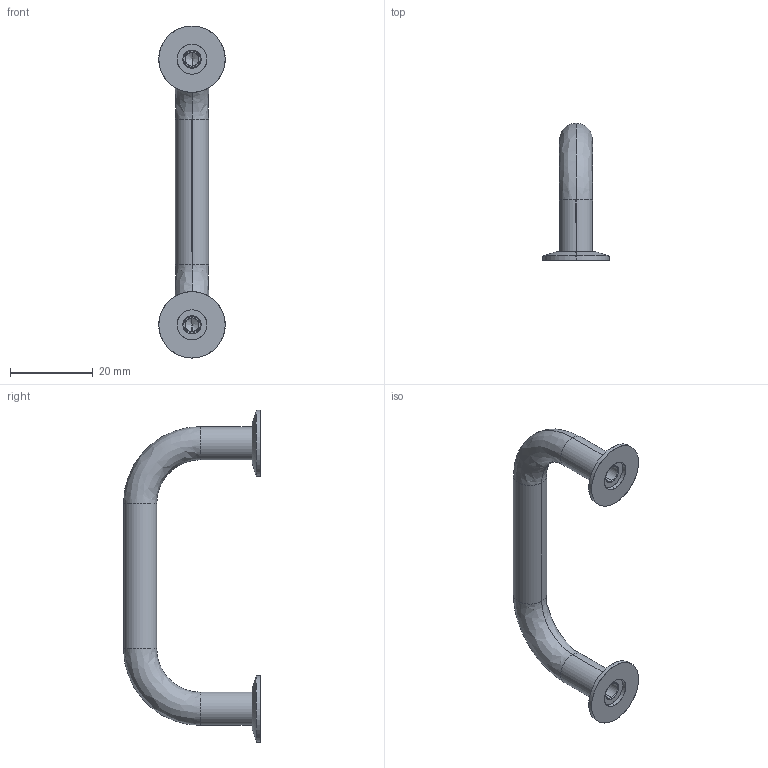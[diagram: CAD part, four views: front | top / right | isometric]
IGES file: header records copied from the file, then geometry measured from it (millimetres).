
Start section: SolidWorks IGES file using analytic representation for surfaces
Global section: file name: C:\Documents and Settings\IANO\Desktop\Temp File\Process pending\PCN pending\78700_v2\78700_v2_20170116_IGES\78700.W0106.igs; native system: SolidWorks 2009; preprocessor: SolidWorks 2009; author: IANO; date: 170310.095634; units: millimetre
Bounding box: 16 x 33 x 80 mm (x, y, z)
Surface area: 3841.7 mm2 (no closed solid volume)
Topology: 0 solids, 0 shells, 52 faces, 808 edges, 804 vertices
Faces by surface type: revolution 38, bspline 14
